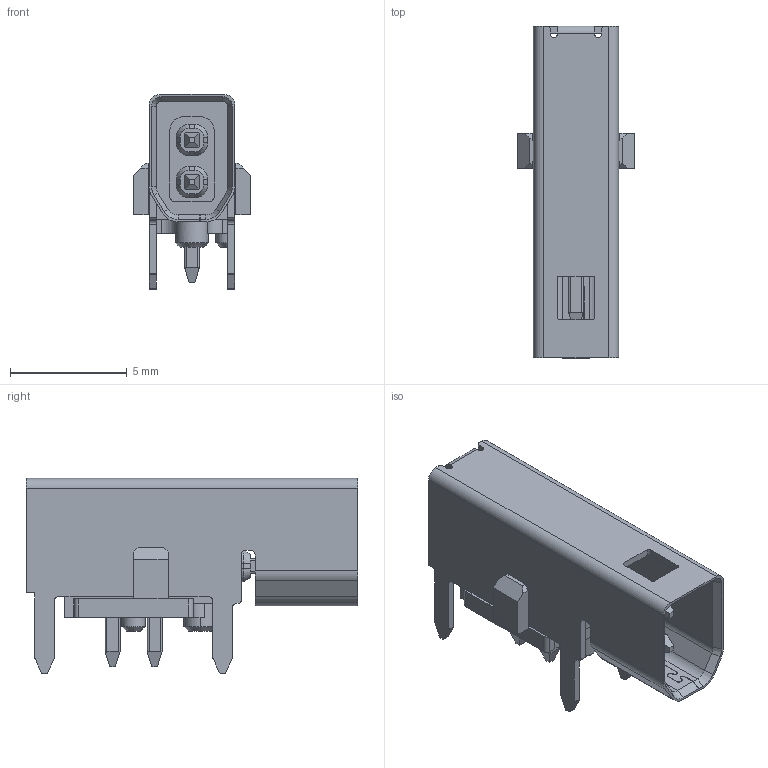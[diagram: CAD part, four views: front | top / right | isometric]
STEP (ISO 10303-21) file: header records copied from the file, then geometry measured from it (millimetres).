
FILE_DESCRIPTION((''),'2;1');
FILE_NAME('229A-R202_C_1_ASM','2026-05-21T',('fros.liao'),(''),'CREO PARAMETRIC BY PTC INC, 2018360','CREO PARAMETRIC BY PTC INC, 2018360','');
FILE_SCHEMA(('CONFIG_CONTROL_DESIGN'));
Products named in the file (5): SPE_TYPE2_2_1; SPE_TYPE2_3_12; SPE_TYPE2_4_1; _X2_8F935165_X0_2-0607_15; 229A-R202_C_1_ASM
Assembly tree (4 placements, depth 2):
  229A-R202_C_1_ASM
    SPE_TYPE2_2_1
    SPE_TYPE2_3_12
    SPE_TYPE2_4_1
    _X2_8F935165_X0_2-0607_15
Bounding box: 5 x 14.2 x 8.35 mm (x, y, z)
Volume: 198.2 mm3; surface area: 774.9 mm2
Topology: 4 solids, 4 shells, 385 faces, 1068 edges, 688 vertices
Faces by surface type: plane 239, cylinder 118, cone 18, bspline 6, torus 4
Entity records: 14034 total; most frequent: CARTESIAN_POINT 4060, ORIENTED_EDGE 2128, DIRECTION 1995, EDGE_CURVE 1064, VECTOR 745, LINE 745, VERTEX_POINT 688, AXIS2_PLACEMENT_3D 625
